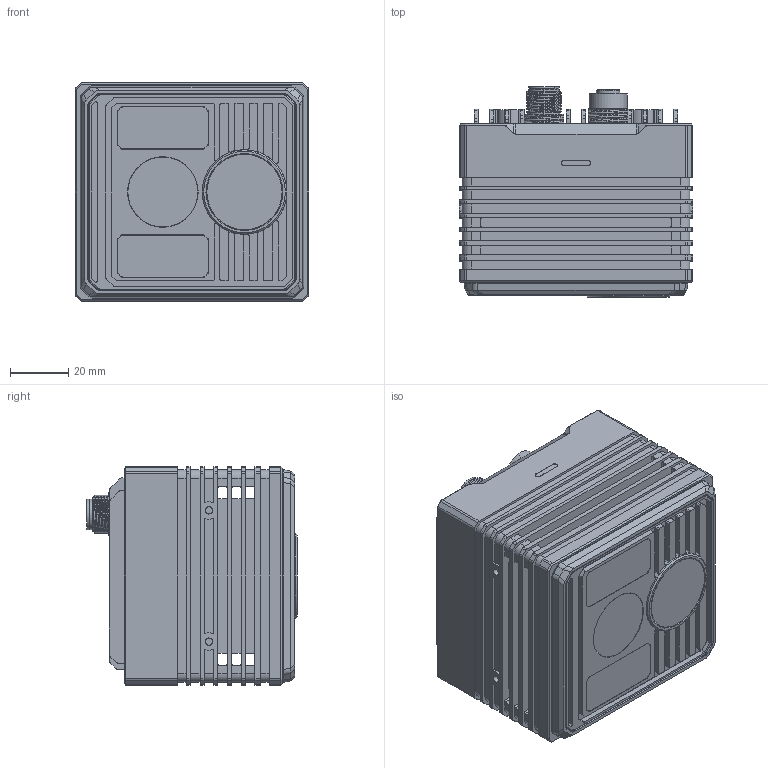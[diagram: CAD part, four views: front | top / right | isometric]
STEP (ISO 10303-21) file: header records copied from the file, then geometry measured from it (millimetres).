
FILE_DESCRIPTION((''),'2;1');
FILE_NAME('A_SW0001','2024-11-26T21:23:27',('guotianbo'),(''),'CREO PARAMETRIC BY PTC INC, 2020044','CREO PARAMETRIC BY PTC INC, 2020044','');
FILE_SCHEMA(('AUTOMOTIVE_DESIGN { 1 0 10303 214 1 1 1 1 }'));
Products named in the file (1): A_SW0001
Bounding box: 80 x 72.2 x 75 mm (x, y, z)
Surface area: 75440.3 mm2 (no closed solid volume)
Topology: 0 solids, 36 shells, 1451 faces, 4458 edges, 3027 vertices
Faces by surface type: cylinder 621, plane 601, cone 107, bspline 102, extrusion 16, torus 4
Entity records: 66509 total; most frequent: CARTESIAN_POINT 23942, ORIENTED_EDGE 8123, DIRECTION 7816, EDGE_CURVE 4434, VERTEX_POINT 3027, AXIS2_PLACEMENT_3D 2742, VECTOR 2332, LINE 2316
